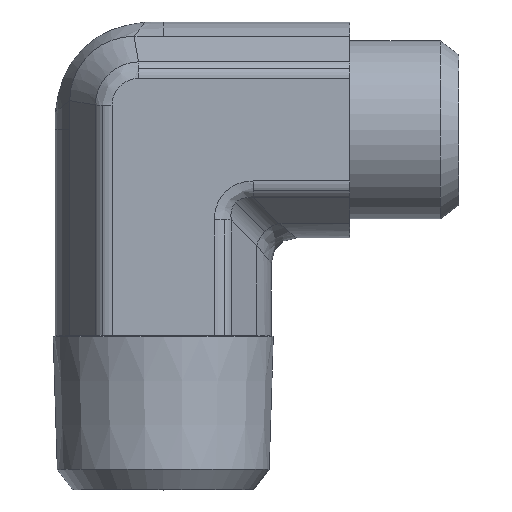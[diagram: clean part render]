
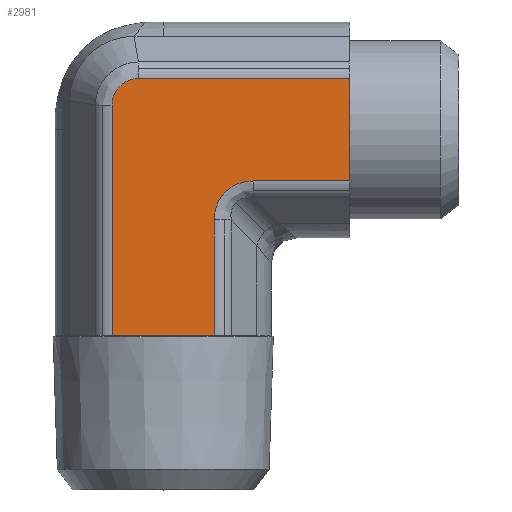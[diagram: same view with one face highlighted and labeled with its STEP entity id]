
A CAD part, top view. The second image highlights one B-rep face of the part: STEP entity #2981.
In plain terms, the highlighted planar face has unit normal (0, 0, 1) as drawn and (0, -1, 0) by its records, which use the part's own axes.
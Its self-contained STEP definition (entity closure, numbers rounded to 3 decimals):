
#319=CARTESIAN_POINT('',(2.515,-8.4,3.984));
#320=VERTEX_POINT('',#319);
#328=CARTESIAN_POINT('',(11.5,-8.4,3.984));
#329=VERTEX_POINT('',#328);
#330=CARTESIAN_POINT('',(2.515,-8.4,3.984));
#331=DIRECTION('',(1.0,0.0,0.0));
#332=VECTOR('',#331,8.985);
#333=LINE('',#330,#332);
#334=EDGE_CURVE('',#320,#329,#333,.T.);
#443=CARTESIAN_POINT('',(-8.484,-8.4,-1.926));
#444=VERTEX_POINT('',#443);
#452=CARTESIAN_POINT('',(-8.484,-8.4,14.5));
#453=VERTEX_POINT('',#452);
#454=CARTESIAN_POINT('',(-8.484,-8.4,-1.926));
#455=DIRECTION('',(0.0,0.0,1.0));
#456=VECTOR('',#455,16.426);
#457=LINE('',#454,#456);
#458=EDGE_CURVE('',#444,#453,#457,.T.);
#629=CARTESIAN_POINT('',(11.5,-8.4,0.));
#630=VERTEX_POINT('',#629);
#1942=CARTESIAN_POINT('',(-0.516,-8.4,14.5));
#1943=VERTEX_POINT('',#1942);
#1944=CARTESIAN_POINT('',(-0.516,-8.4,14.5));
#1945=DIRECTION('',(-1.0,0.0,0.0));
#1946=VECTOR('',#1945,7.967);
#1947=LINE('',#1944,#1946);
#1948=EDGE_CURVE('',#1943,#453,#1947,.T.);
#2291=CARTESIAN_POINT('',(11.5,-8.4,-3.984));
#2292=VERTEX_POINT('',#2291);
#2293=CARTESIAN_POINT('',(11.5,-8.4,-3.984));
#2294=DIRECTION('',(0.0,0.0,1.0));
#2295=VECTOR('',#2294,3.984);
#2296=LINE('',#2293,#2295);
#2297=EDGE_CURVE('',#2292,#630,#2296,.T.);
#2315=CARTESIAN_POINT('',(11.5,-8.4,0.));
#2316=DIRECTION('',(0.0,0.0,1.0));
#2317=VECTOR('',#2316,3.984);
#2318=LINE('',#2315,#2317);
#2319=EDGE_CURVE('',#630,#329,#2318,.T.);
#2666=CARTESIAN_POINT('',(-6.426,-8.4,-3.984));
#2667=VERTEX_POINT('',#2666);
#2675=CARTESIAN_POINT('',(-8.484,-8.4,-1.926));
#2676=CARTESIAN_POINT('',(-8.484,-8.4,-2.06));
#2677=CARTESIAN_POINT('',(-8.47,-8.4,-2.195));
#2678=CARTESIAN_POINT('',(-8.402,-8.4,-2.54));
#2679=CARTESIAN_POINT('',(-8.326,-8.4,-2.743));
#2680=CARTESIAN_POINT('',(-8.051,-8.4,-3.233));
#2681=CARTESIAN_POINT('',(-7.806,-8.4,-3.49));
#2682=CARTESIAN_POINT('',(-7.186,-8.4,-3.876));
#2683=CARTESIAN_POINT('',(-6.806,-8.4,-3.984));
#2684=CARTESIAN_POINT('',(-6.426,-8.4,-3.984));
#2685=B_SPLINE_CURVE_WITH_KNOTS('',3,(#2675,#2676,#2677,#2678,#2679,#2680,#2681,#2682,#2683,#2684),.UNSPECIFIED.,.F.,.U.,(4,2,2,2,4),(-3.216,-2.814,-2.171,-1.142,0.0),.UNSPECIFIED.);
#2686=EDGE_CURVE('',#2667,#444,#2685,.F.);
#2713=CARTESIAN_POINT('',(11.5,-8.4,-3.984));
#2714=DIRECTION('',(-1.0,0.0,0.0));
#2715=VECTOR('',#2714,17.926);
#2716=LINE('',#2713,#2715);
#2717=EDGE_CURVE('',#2292,#2667,#2716,.T.);
#2849=CARTESIAN_POINT('',(-0.516,-8.4,7.015));
#2850=VERTEX_POINT('',#2849);
#2851=CARTESIAN_POINT('',(-0.516,-8.4,14.5));
#2852=DIRECTION('',(0.0,0.0,-1.0));
#2853=VECTOR('',#2852,7.485);
#2854=LINE('',#2851,#2853);
#2855=EDGE_CURVE('',#1943,#2850,#2854,.T.);
#2938=CARTESIAN_POINT('',(3.525,-8.4,8.025));
#2939=DIRECTION('',(0.,-1.,0.));
#2940=DIRECTION('',(-0.707,0.,-0.707));
#2941=AXIS2_PLACEMENT_3D('',#2938,#2939,#2940);
#2942=ELLIPSE('',#2941,4.518,3.5);
#2943=EDGE_CURVE('',#2850,#320,#2942,.T.);
#2965=CARTESIAN_POINT('',(-4.5,-8.4,-3.175));
#2966=DIRECTION('',(0.0,-1.0,0.0));
#2967=DIRECTION('',(0.0,0.0,-1.0));
#2968=AXIS2_PLACEMENT_3D('',#2965,#2966,#2967);
#2969=PLANE('',#2968);
#2970=ORIENTED_EDGE('',*,*,#1948,.T.);
#2971=ORIENTED_EDGE('',*,*,#458,.F.);
#2972=ORIENTED_EDGE('',*,*,#2686,.F.);
#2973=ORIENTED_EDGE('',*,*,#2717,.F.);
#2974=ORIENTED_EDGE('',*,*,#2297,.T.);
#2975=ORIENTED_EDGE('',*,*,#2319,.T.);
#2976=ORIENTED_EDGE('',*,*,#334,.F.);
#2977=ORIENTED_EDGE('',*,*,#2943,.F.);
#2978=ORIENTED_EDGE('',*,*,#2855,.F.);
#2979=EDGE_LOOP('',(#2970,#2971,#2972,#2973,#2974,#2975,#2976,#2977,#2978));
#2980=FACE_OUTER_BOUND('',#2979,.T.);
#2981=ADVANCED_FACE('',(#2980),#2969,.T.);
